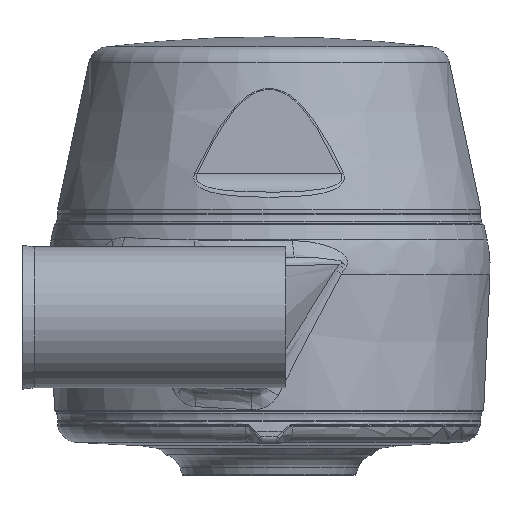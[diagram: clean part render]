
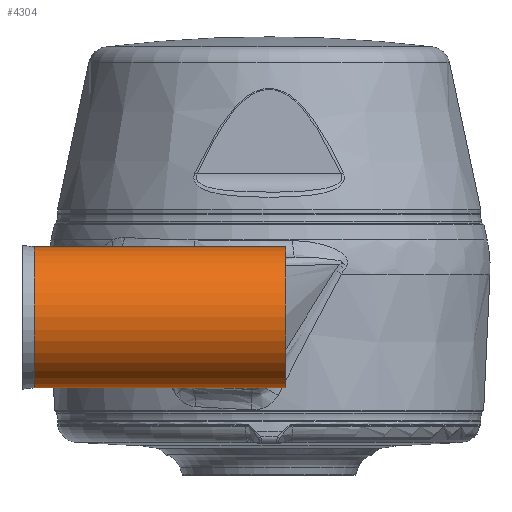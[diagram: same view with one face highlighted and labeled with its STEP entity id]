
A CAD part, front view. The second image highlights one B-rep face of the part: STEP entity #4304.
In plain terms, the highlighted cylindrical face has radius 10.5 mm (diameter 21 mm), a partial arc.
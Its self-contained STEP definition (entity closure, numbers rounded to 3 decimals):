
#480 = EDGE_CURVE ( 'NONE', #7947, #2002, #14100, .T. ) ;
#614 = ORIENTED_EDGE ( 'NONE', *, *, #10379, .T. ) ;
#1463 = CIRCLE ( 'NONE', #5987, 10.5 ) ;
#1720 = ORIENTED_EDGE ( 'NONE', *, *, #12025, .T. ) ;
#1864 = VERTEX_POINT ( 'NONE', #14380 ) ;
#2002 = VERTEX_POINT ( 'NONE', #11262 ) ;
#2022 = AXIS2_PLACEMENT_3D ( 'NONE', #2219, #9388, #7159 ) ;
#2142 = FACE_OUTER_BOUND ( 'NONE', #11313, .T. ) ;
#2150 = ORIENTED_EDGE ( 'NONE', *, *, #2602, .T. ) ;
#2219 = CARTESIAN_POINT ( 'NONE',  ( -36.5, -52.5, 0. ) ) ;
#2278 = DIRECTION ( 'NONE',  ( -1., 0., 0. ) ) ;
#2499 = AXIS2_PLACEMENT_3D ( 'NONE', #11962, #4681, #14349 ) ;
#2602 = EDGE_CURVE ( 'NONE', #14003, #2002, #1463, .T. ) ;
#3464 = DIRECTION ( 'NONE',  ( 0., 0., 1. ) ) ;
#4293 = DIRECTION ( 'NONE',  ( 1., 0., 0. ) ) ;
#4304 = ADVANCED_FACE ( 'NONE', ( #2142 ), #5899, .T. ) ;
#4681 = DIRECTION ( 'NONE',  ( 1., 0., 0. ) ) ;
#4756 = CIRCLE ( 'NONE', #2499, 10.5 ) ;
#4888 = ORIENTED_EDGE ( 'NONE', *, *, #480, .F. ) ;
#5899 = CYLINDRICAL_SURFACE ( 'NONE', #2022, 10.5 ) ;
#5987 = AXIS2_PLACEMENT_3D ( 'NONE', #10479, #2278, #3464 ) ;
#6389 = CARTESIAN_POINT ( 'NONE',  ( 2.5, -52.5, -10.5 ) ) ;
#6944 = CARTESIAN_POINT ( 'NONE',  ( -36.5, -52.5, 10.5 ) ) ;
#7159 = DIRECTION ( 'NONE',  ( 0., 0., 1. ) ) ;
#7947 = VERTEX_POINT ( 'NONE', #12710 ) ;
#8009 = LINE ( 'NONE', #11808, #9486 ) ;
#9388 = DIRECTION ( 'NONE',  ( 1., 0., 0. ) ) ;
#9486 = VECTOR ( 'NONE', #4293, 1000. ) ;
#10379 = EDGE_CURVE ( 'NONE', #1864, #14003, #8009, .T. ) ;
#10479 = CARTESIAN_POINT ( 'NONE',  ( 2.5, -52.5, 0. ) ) ;
#11262 = CARTESIAN_POINT ( 'NONE',  ( 2.5, -52.5, 10.5 ) ) ;
#11313 = EDGE_LOOP ( 'NONE', ( #1720, #614, #2150, #4888 ) ) ;
#11716 = DIRECTION ( 'NONE',  ( 1., 0., 0. ) ) ;
#11808 = CARTESIAN_POINT ( 'NONE',  ( -36.5, -52.5, -10.5 ) ) ;
#11962 = CARTESIAN_POINT ( 'NONE',  ( -35., -52.5, 0. ) ) ;
#12025 = EDGE_CURVE ( 'NONE', #7947, #1864, #4756, .T. ) ;
#12710 = CARTESIAN_POINT ( 'NONE',  ( -35., -52.5, 10.5 ) ) ;
#13030 = VECTOR ( 'NONE', #11716, 1000. ) ;
#14003 = VERTEX_POINT ( 'NONE', #6389 ) ;
#14100 = LINE ( 'NONE', #6944, #13030 ) ;
#14349 = DIRECTION ( 'NONE',  ( 0., 0., -1. ) ) ;
#14380 = CARTESIAN_POINT ( 'NONE',  ( -35., -52.5, -10.5 ) ) ;
